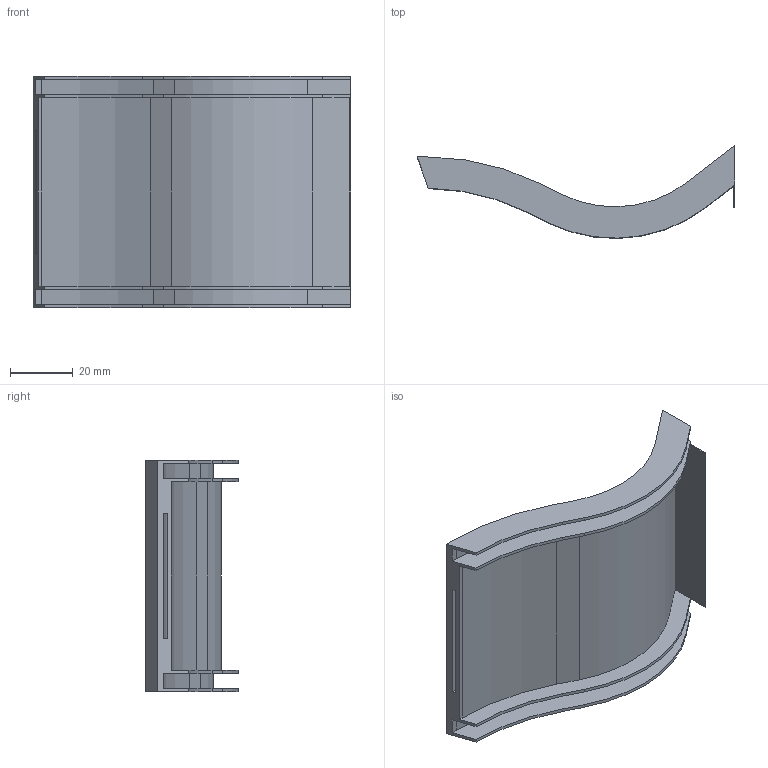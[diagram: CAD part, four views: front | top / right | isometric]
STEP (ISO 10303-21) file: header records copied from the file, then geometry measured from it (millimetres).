
FILE_DESCRIPTION(('STEP AP203'), '1');
FILE_NAME('ðåçîíàòîð 3', '', ('UNSPECIFIED'), ('UNSPECIFIED'), 'ASCON STEP Converter 1.3', 'ASCON Math Kernel', '');
FILE_SCHEMA(('CONFIG_CONTROL_DESIGN'));
Length unit declared in the file: millimetre
Bounding box: 101.27 x 29.56 x 74 mm (x, y, z)
Volume: 30951.3 mm3; surface area: 34068.4 mm2
Topology: 1 solids, 1 shells, 62 faces, 178 edges, 118 vertices
Faces by surface type: plane 42, cylinder 20
Entity records: 2570 total; most frequent: CARTESIAN_POINT 359, ORIENTED_EDGE 356, DIRECTION 344, EDGE_CURVE 178, LINE 138, VECTOR 138, VERTEX_POINT 118, AXIS2_PLACEMENT_3D 103
